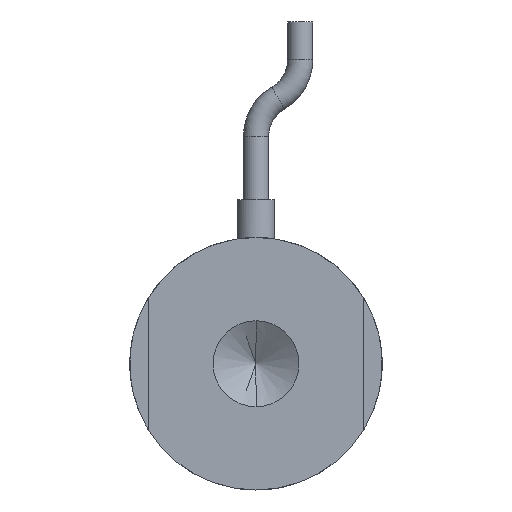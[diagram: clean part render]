
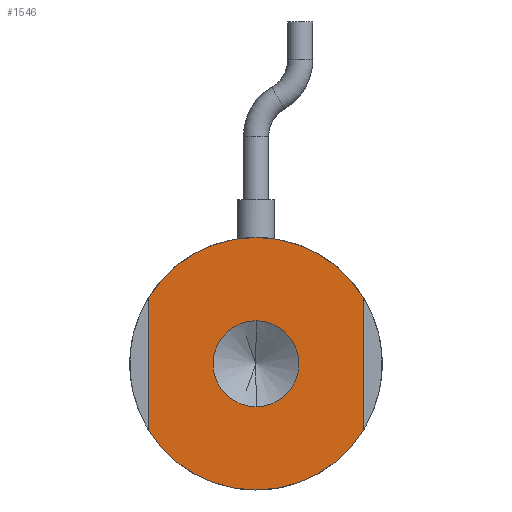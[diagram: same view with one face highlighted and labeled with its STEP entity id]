
A CAD part, front view. The second image highlights one B-rep face of the part: STEP entity #1546.
In plain terms, the highlighted planar face has unit normal (0, -1, 0).
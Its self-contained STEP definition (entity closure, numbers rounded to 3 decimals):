
#261 = EDGE_CURVE ( 'NONE', #21950, #42782, #15228, .T. ) ;
#448 = EDGE_CURVE ( 'NONE', #18014, #15295, #3865, .T. ) ;
#988 = CIRCLE ( 'NONE', #25201, 3.4 ) ;
#1100 = EDGE_CURVE ( 'NONE', #2641, #18014, #41558, .T. ) ;
#1130 = FACE_OUTER_BOUND ( 'NONE', #30095, .T. ) ;
#1274 = ORIENTED_EDGE ( 'NONE', *, *, #261, .F. ) ;
#1417 = CARTESIAN_POINT ( 'NONE',  ( 0., 0., 0. ) ) ;
#1522 = DIRECTION ( 'NONE',  ( 0., 0., 1. ) ) ;
#1546 = ADVANCED_FACE ( 'NONE', ( #18493, #1130 ), #1767, .F. ) ;
#1581 = DIRECTION ( 'NONE',  ( 0., 1., 0. ) ) ;
#1767 = PLANE ( 'NONE',  #31247 ) ;
#1885 = CARTESIAN_POINT ( 'NONE',  ( 0., 0., 0. ) ) ;
#2641 = VERTEX_POINT ( 'NONE', #39829 ) ;
#3062 = ORIENTED_EDGE ( 'NONE', *, *, #3937, .F. ) ;
#3865 = CIRCLE ( 'NONE', #21225, 10. ) ;
#3937 = EDGE_CURVE ( 'NONE', #24021, #21950, #34377, .T. ) ;
#4599 = AXIS2_PLACEMENT_3D ( 'NONE', #10758, #10708, #10653 ) ;
#4884 = DIRECTION ( 'NONE',  ( 0., 0., -1. ) ) ;
#7815 = LINE ( 'NONE', #14413, #43919 ) ;
#8992 = ORIENTED_EDGE ( 'NONE', *, *, #1100, .F. ) ;
#9159 = DIRECTION ( 'NONE',  ( 0., 0., -1. ) ) ;
#9698 = EDGE_LOOP ( 'NONE', ( #29278, #44343 ) ) ;
#9951 = CARTESIAN_POINT ( 'NONE',  ( 0., 0., 10. ) ) ;
#9982 = VECTOR ( 'NONE', #9159, 1000. ) ;
#10653 = DIRECTION ( 'NONE',  ( 0., 0., 1. ) ) ;
#10708 = DIRECTION ( 'NONE',  ( 0., 1., 0. ) ) ;
#10758 = CARTESIAN_POINT ( 'NONE',  ( 0., 0., 0. ) ) ;
#12317 = CARTESIAN_POINT ( 'NONE',  ( 8.5, 0., 0. ) ) ;
#13472 = EDGE_CURVE ( 'NONE', #42782, #2641, #36776, .T. ) ;
#14413 = CARTESIAN_POINT ( 'NONE',  ( -8.5, 0., 0. ) ) ;
#15228 = CIRCLE ( 'NONE', #4599, 10. ) ;
#15295 = VERTEX_POINT ( 'NONE', #29901 ) ;
#16159 = CARTESIAN_POINT ( 'NONE',  ( 0., 0., 0. ) ) ;
#18014 = VERTEX_POINT ( 'NONE', #38630 ) ;
#18342 = CARTESIAN_POINT ( 'NONE',  ( 0., 0., 3.4 ) ) ;
#18493 = FACE_BOUND ( 'NONE', #9698, .T. ) ;
#19633 = AXIS2_PLACEMENT_3D ( 'NONE', #1417, #25804, #4884 ) ;
#19692 = DIRECTION ( 'NONE',  ( 0., 0., -1. ) ) ;
#20632 = DIRECTION ( 'NONE',  ( 0., 0., 1. ) ) ;
#20753 = DIRECTION ( 'NONE',  ( 0., 1., 0. ) ) ;
#20787 = CARTESIAN_POINT ( 'NONE',  ( 0., 0., 0. ) ) ;
#21225 = AXIS2_PLACEMENT_3D ( 'NONE', #36010, #35622, #35480 ) ;
#21306 = DIRECTION ( 'NONE',  ( 0., 0., 1. ) ) ;
#21401 = DIRECTION ( 'NONE',  ( 0., 1., 0. ) ) ;
#21414 = CARTESIAN_POINT ( 'NONE',  ( 0., 0., 0. ) ) ;
#21924 = CIRCLE ( 'NONE', #19633, 3.4 ) ;
#21950 = VERTEX_POINT ( 'NONE', #9951 ) ;
#22520 = EDGE_CURVE ( 'NONE', #24461, #36920, #21924, .T. ) ;
#23586 = CARTESIAN_POINT ( 'NONE',  ( 0., 0., -3.4 ) ) ;
#24021 = VERTEX_POINT ( 'NONE', #31297 ) ;
#24461 = VERTEX_POINT ( 'NONE', #23586 ) ;
#25201 = AXIS2_PLACEMENT_3D ( 'NONE', #16159, #40681, #19692 ) ;
#25475 = ORIENTED_EDGE ( 'NONE', *, *, #43092, .F. ) ;
#25804 = DIRECTION ( 'NONE',  ( 0., -1., 0. ) ) ;
#29278 = ORIENTED_EDGE ( 'NONE', *, *, #22520, .F. ) ;
#29901 = CARTESIAN_POINT ( 'NONE',  ( -8.5, 0., -5.268 ) ) ;
#30095 = EDGE_LOOP ( 'NONE', ( #25475, #37403, #8992, #33490, #1274, #3062 ) ) ;
#31247 = AXIS2_PLACEMENT_3D ( 'NONE', #1885, #1581, #1522 ) ;
#31297 = CARTESIAN_POINT ( 'NONE',  ( -8.5, 0., 5.268 ) ) ;
#32428 = CARTESIAN_POINT ( 'NONE',  ( 8.5, 0., 5.268 ) ) ;
#32442 = AXIS2_PLACEMENT_3D ( 'NONE', #20787, #20753, #20632 ) ;
#33490 = ORIENTED_EDGE ( 'NONE', *, *, #13472, .F. ) ;
#33999 = EDGE_CURVE ( 'NONE', #36920, #24461, #988, .T. ) ;
#34377 = CIRCLE ( 'NONE', #32442, 10. ) ;
#35480 = DIRECTION ( 'NONE',  ( 0., 0., 1. ) ) ;
#35622 = DIRECTION ( 'NONE',  ( 0., 1., 0. ) ) ;
#36010 = CARTESIAN_POINT ( 'NONE',  ( 0., 0., 0. ) ) ;
#36736 = AXIS2_PLACEMENT_3D ( 'NONE', #21414, #21401, #21306 ) ;
#36776 = LINE ( 'NONE', #12317, #9982 ) ;
#36920 = VERTEX_POINT ( 'NONE', #18342 ) ;
#37403 = ORIENTED_EDGE ( 'NONE', *, *, #448, .F. ) ;
#38630 = CARTESIAN_POINT ( 'NONE',  ( 0., 0., -10. ) ) ;
#39829 = CARTESIAN_POINT ( 'NONE',  ( 8.5, 0., -5.268 ) ) ;
#40681 = DIRECTION ( 'NONE',  ( 0., -1., 0. ) ) ;
#41558 = CIRCLE ( 'NONE', #36736, 10. ) ;
#42479 = DIRECTION ( 'NONE',  ( 0., 0., 1. ) ) ;
#42782 = VERTEX_POINT ( 'NONE', #32428 ) ;
#43092 = EDGE_CURVE ( 'NONE', #15295, #24021, #7815, .T. ) ;
#43919 = VECTOR ( 'NONE', #42479, 1000. ) ;
#44343 = ORIENTED_EDGE ( 'NONE', *, *, #33999, .F. ) ;
